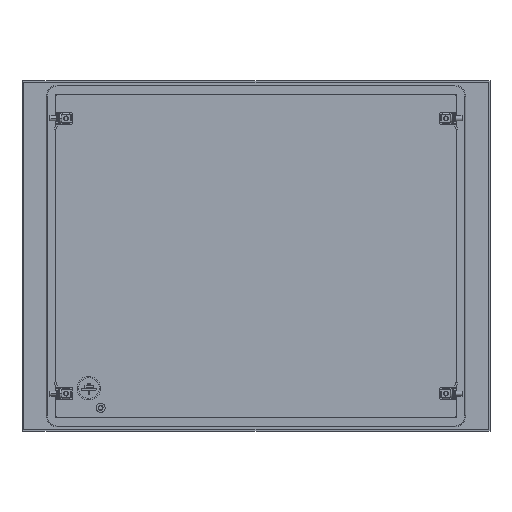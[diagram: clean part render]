
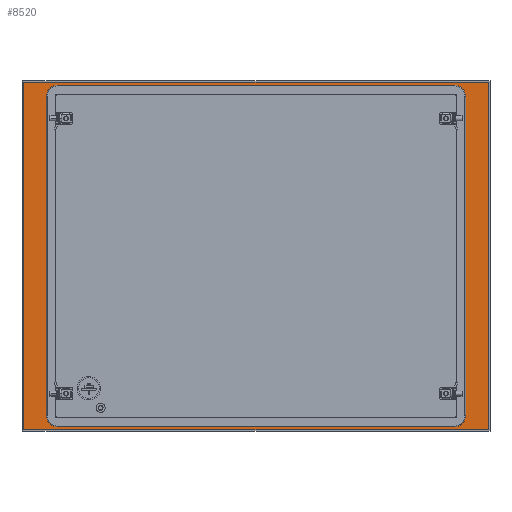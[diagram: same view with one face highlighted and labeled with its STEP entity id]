
A CAD part, left-side view. The second image highlights one B-rep face of the part: STEP entity #8520.
In plain terms, the highlighted planar face has unit normal (-1, 0, 0).
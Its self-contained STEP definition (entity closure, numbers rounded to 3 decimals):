
#22 = CARTESIAN_POINT ( 'NONE',  ( -2., -252.5, -217. ) ) ;
#220 = DIRECTION ( 'NONE',  ( 0., 0., 1. ) ) ;
#340 = VECTOR ( 'NONE', #4555, 1000. ) ;
#910 = ORIENTED_EDGE ( 'NONE', *, *, #2443, .T. ) ;
#997 = VERTEX_POINT ( 'NONE', #18808 ) ;
#1181 = FACE_BOUND ( 'NONE', #20010, .T. ) ;
#1204 = EDGE_CURVE ( 'NONE', #22615, #12195, #23214, .T. ) ;
#1259 = AXIS2_PLACEMENT_3D ( 'NONE', #2499, #2371, #8126 ) ;
#1479 = EDGE_CURVE ( 'NONE', #4823, #16735, #15957, .T. ) ;
#1520 = LINE ( 'NONE', #21119, #20266 ) ;
#1590 = ORIENTED_EDGE ( 'NONE', *, *, #19297, .T. ) ;
#2347 = VECTOR ( 'NONE', #19643, 1000. ) ;
#2371 = DIRECTION ( 'NONE',  ( 1., 0., 0. ) ) ;
#2443 = EDGE_CURVE ( 'NONE', #12195, #20780, #6218, .T. ) ;
#2499 = CARTESIAN_POINT ( 'NONE',  ( -2., -252.5, -203. ) ) ;
#2649 = DIRECTION ( 'NONE',  ( 0., -1., 0. ) ) ;
#2663 = EDGE_CURVE ( 'NONE', #997, #16500, #11044, .T. ) ;
#2711 = PLANE ( 'NONE',  #20810 ) ;
#2995 = CARTESIAN_POINT ( 'NONE',  ( -2., 266.5, -203. ) ) ;
#3018 = AXIS2_PLACEMENT_3D ( 'NONE', #6344, #15769, #220 ) ;
#3132 = DIRECTION ( 'NONE',  ( 1., 0., 0. ) ) ;
#3507 = DIRECTION ( 'NONE',  ( 0., 0., -1. ) ) ;
#4014 = VECTOR ( 'NONE', #10794, 1000. ) ;
#4254 = EDGE_CURVE ( 'NONE', #7587, #22615, #18917, .T. ) ;
#4555 = DIRECTION ( 'NONE',  ( 0., 1., 0. ) ) ;
#4823 = VERTEX_POINT ( 'NONE', #23837 ) ;
#5062 = LINE ( 'NONE', #21996, #14931 ) ;
#5182 = CARTESIAN_POINT ( 'NONE',  ( -2., 266.5, 203. ) ) ;
#5518 = CARTESIAN_POINT ( 'NONE',  ( -2., -266.5, -203. ) ) ;
#5660 = VERTEX_POINT ( 'NONE', #17116 ) ;
#6173 = VERTEX_POINT ( 'NONE', #15688 ) ;
#6218 = LINE ( 'NONE', #8371, #340 ) ;
#6344 = CARTESIAN_POINT ( 'NONE',  ( -2., 252.5, 203. ) ) ;
#6364 = CARTESIAN_POINT ( 'NONE',  ( -2., -252.5, 203. ) ) ;
#6874 = VECTOR ( 'NONE', #3507, 1000. ) ;
#7187 = CARTESIAN_POINT ( 'NONE',  ( -2., 295.5, 0. ) ) ;
#7587 = VERTEX_POINT ( 'NONE', #17595 ) ;
#7627 = DIRECTION ( 'NONE',  ( 0., -1., 0. ) ) ;
#8061 = EDGE_CURVE ( 'NONE', #7587, #4823, #16065, .T. ) ;
#8126 = DIRECTION ( 'NONE',  ( 0., -1., 0. ) ) ;
#8371 = CARTESIAN_POINT ( 'NONE',  ( -2., -252.5, -217. ) ) ;
#8520 = ADVANCED_FACE ( 'NONE', ( #20150, #1181 ), #2711, .F. ) ;
#8533 = ORIENTED_EDGE ( 'NONE', *, *, #1204, .T. ) ;
#10257 = ORIENTED_EDGE ( 'NONE', *, *, #10672, .F. ) ;
#10438 = DIRECTION ( 'NONE',  ( -1., 0., 0. ) ) ;
#10500 = VERTEX_POINT ( 'NONE', #14269 ) ;
#10506 = CARTESIAN_POINT ( 'NONE',  ( -2., 0., 0. ) ) ;
#10672 = EDGE_CURVE ( 'NONE', #16735, #16500, #16455, .T. ) ;
#10794 = DIRECTION ( 'NONE',  ( 0., 0., 1. ) ) ;
#10939 = DIRECTION ( 'NONE',  ( 0., 0., -1. ) ) ;
#11044 = LINE ( 'NONE', #2995, #4014 ) ;
#11606 = EDGE_CURVE ( 'NONE', #6173, #14046, #5062, .T. ) ;
#11996 = ORIENTED_EDGE ( 'NONE', *, *, #11606, .T. ) ;
#12195 = VERTEX_POINT ( 'NONE', #22 ) ;
#12582 = EDGE_CURVE ( 'NONE', #10500, #5660, #1520, .T. ) ;
#12843 = ORIENTED_EDGE ( 'NONE', *, *, #2663, .T. ) ;
#13160 = ORIENTED_EDGE ( 'NONE', *, *, #14618, .T. ) ;
#13544 = ORIENTED_EDGE ( 'NONE', *, *, #12582, .T. ) ;
#13664 = ORIENTED_EDGE ( 'NONE', *, *, #15379, .T. ) ;
#13675 = ORIENTED_EDGE ( 'NONE', *, *, #8061, .F. ) ;
#13926 = ORIENTED_EDGE ( 'NONE', *, *, #4254, .T. ) ;
#13988 = CIRCLE ( 'NONE', #23731, 14. ) ;
#14046 = VERTEX_POINT ( 'NONE', #15834 ) ;
#14269 = CARTESIAN_POINT ( 'NONE',  ( -2., 295.5, -221. ) ) ;
#14560 = DIRECTION ( 'NONE',  ( 0., 0., 1. ) ) ;
#14618 = EDGE_CURVE ( 'NONE', #14046, #10500, #15098, .T. ) ;
#14831 = AXIS2_PLACEMENT_3D ( 'NONE', #6364, #10438, #2649 ) ;
#14931 = VECTOR ( 'NONE', #18425, 1000. ) ;
#15098 = LINE ( 'NONE', #7187, #16966 ) ;
#15111 = CARTESIAN_POINT ( 'NONE',  ( -2., -266.5, 0. ) ) ;
#15379 = EDGE_CURVE ( 'NONE', #5660, #6173, #23593, .T. ) ;
#15510 = EDGE_LOOP ( 'NONE', ( #13664, #11996, #13160, #13544 ) ) ;
#15577 = CARTESIAN_POINT ( 'NONE',  ( -2., -252.5, 217. ) ) ;
#15688 = CARTESIAN_POINT ( 'NONE',  ( -2., -295.5, 221. ) ) ;
#15769 = DIRECTION ( 'NONE',  ( -1., 0., 0. ) ) ;
#15834 = CARTESIAN_POINT ( 'NONE',  ( -2., 295.5, 221. ) ) ;
#15957 = LINE ( 'NONE', #15577, #17549 ) ;
#16065 = CIRCLE ( 'NONE', #14831, 14. ) ;
#16455 = CIRCLE ( 'NONE', #3018, 14. ) ;
#16500 = VERTEX_POINT ( 'NONE', #5182 ) ;
#16735 = VERTEX_POINT ( 'NONE', #23045 ) ;
#16966 = VECTOR ( 'NONE', #20804, 1000. ) ;
#17116 = CARTESIAN_POINT ( 'NONE',  ( -2., -295.5, -221. ) ) ;
#17549 = VECTOR ( 'NONE', #23699, 1000. ) ;
#17595 = CARTESIAN_POINT ( 'NONE',  ( -2., -266.5, 203. ) ) ;
#18259 = DIRECTION ( 'NONE',  ( 1., 0., 0. ) ) ;
#18425 = DIRECTION ( 'NONE',  ( 0., 1., 0. ) ) ;
#18808 = CARTESIAN_POINT ( 'NONE',  ( -2., 266.5, -203. ) ) ;
#18917 = LINE ( 'NONE', #15111, #6874 ) ;
#19266 = CARTESIAN_POINT ( 'NONE',  ( -2., -295.5, 0. ) ) ;
#19297 = EDGE_CURVE ( 'NONE', #20780, #997, #13988, .T. ) ;
#19573 = ORIENTED_EDGE ( 'NONE', *, *, #1479, .F. ) ;
#19643 = DIRECTION ( 'NONE',  ( 0., 0., 1. ) ) ;
#20010 = EDGE_LOOP ( 'NONE', ( #13675, #13926, #8533, #910, #1590, #12843, #10257, #19573 ) ) ;
#20150 = FACE_OUTER_BOUND ( 'NONE', #15510, .T. ) ;
#20266 = VECTOR ( 'NONE', #7627, 1000. ) ;
#20780 = VERTEX_POINT ( 'NONE', #24012 ) ;
#20804 = DIRECTION ( 'NONE',  ( 0., 0., -1. ) ) ;
#20810 = AXIS2_PLACEMENT_3D ( 'NONE', #10506, #18259, #14560 ) ;
#21119 = CARTESIAN_POINT ( 'NONE',  ( -2., 0., -221. ) ) ;
#21996 = CARTESIAN_POINT ( 'NONE',  ( -2., 0., 221. ) ) ;
#22615 = VERTEX_POINT ( 'NONE', #5518 ) ;
#23045 = CARTESIAN_POINT ( 'NONE',  ( -2., 252.5, 217. ) ) ;
#23214 = CIRCLE ( 'NONE', #1259, 14. ) ;
#23593 = LINE ( 'NONE', #19266, #2347 ) ;
#23699 = DIRECTION ( 'NONE',  ( 0., 1., 0. ) ) ;
#23731 = AXIS2_PLACEMENT_3D ( 'NONE', #24411, #3132, #10939 ) ;
#23837 = CARTESIAN_POINT ( 'NONE',  ( -2., -252.5, 217. ) ) ;
#24012 = CARTESIAN_POINT ( 'NONE',  ( -2., 252.5, -217. ) ) ;
#24411 = CARTESIAN_POINT ( 'NONE',  ( -2., 252.5, -203. ) ) ;
